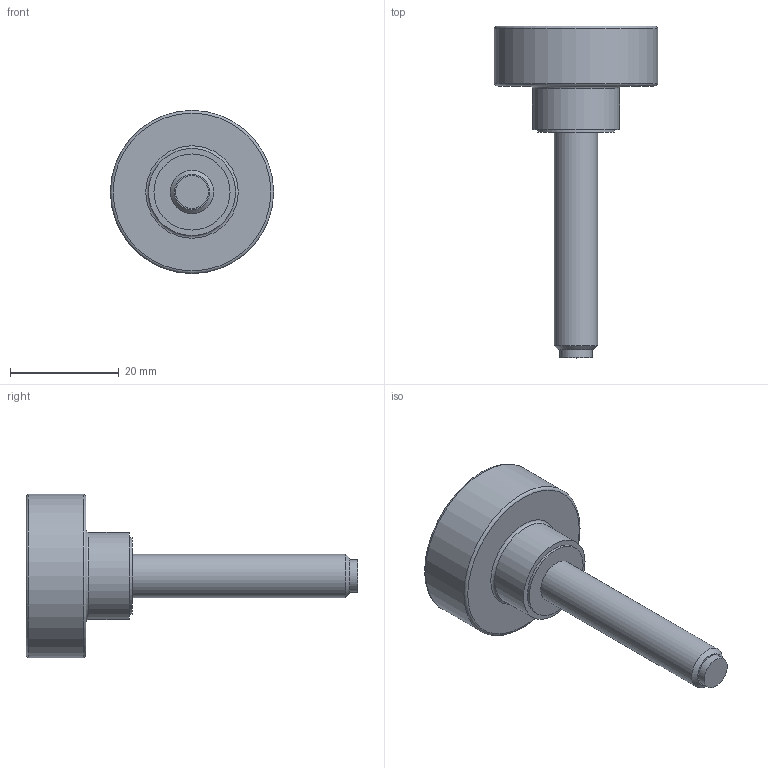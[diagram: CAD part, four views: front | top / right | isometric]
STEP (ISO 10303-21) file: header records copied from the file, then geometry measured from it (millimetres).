
FILE_DESCRIPTION( ( 'STEP AP203' ), '1' );
FILE_NAME( 'C:/Temp/Ganter_Step_05_03_2020/data/2_2/gn_421_10/Hollow knurled knob, with tip GN 421.10-M8-40-MS.stp', '2020-03-05T12:25:35', ( 'License CC BY-ND 4.0' ), ( 'CADENAS' ), ' ', 'PARTsolutions', ' ' );
FILE_SCHEMA( ( 'CONFIG_CONTROL_DESIGN' ) );
Length unit declared in the file: millimetre
Products named in the file (1): _Hollow knurled knob, with tip GN 421.10-M8-40-MS
Bounding box: 30 x 61 x 30 mm (x, y, z)
Volume: 7813.7 mm3; surface area: 4512.8 mm2
Topology: 1 solids, 1 shells, 19 faces, 30 edges, 19 vertices
Faces by surface type: plane 8, cylinder 7, torus 3, cone 1
Full cylindrical faces by diameter (mm): 6 x1, 8 x1, 12 x1, 14 x1, 16 x1, 26 x1, 30 x1
Entity records: 418 total; most frequent: DIRECTION 76, CARTESIAN_POINT 56, AXIS2_PLACEMENT_3D 38, EDGE_LOOP 36, ORIENTED_EDGE 36, FACE_OUTER_BOUND 29, ADVANCED_FACE 19, EDGE_CURVE 18
